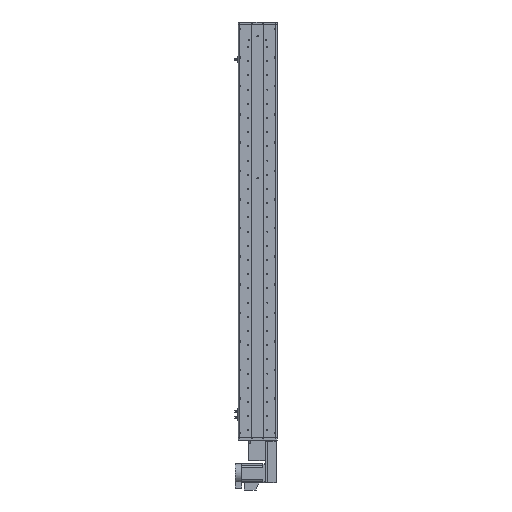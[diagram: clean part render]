
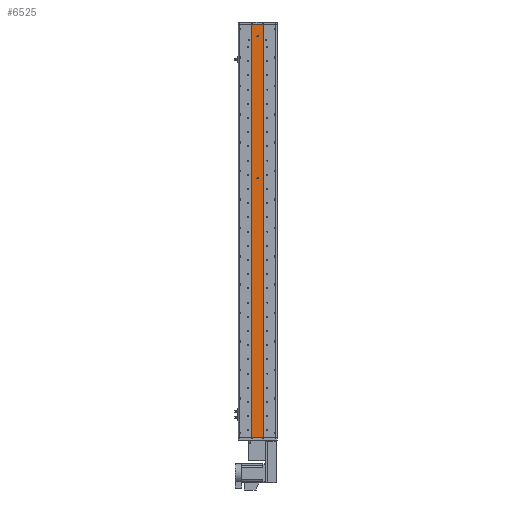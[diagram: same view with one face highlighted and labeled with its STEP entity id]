
A CAD part, front view. The second image highlights one B-rep face of the part: STEP entity #6525.
In plain terms, the highlighted planar face has unit normal (0, -1, 0).
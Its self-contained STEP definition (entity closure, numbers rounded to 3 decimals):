
#2265 = EDGE_CURVE ( 'NONE', #8688, #34502, #40503, .T. ) ;
#2456 = LINE ( 'NONE', #37828, #29016 ) ;
#3602 = CARTESIAN_POINT ( 'NONE',  ( 0., 1., 226.5 ) ) ;
#3659 = LINE ( 'NONE', #62742, #46045 ) ;
#3777 = DIRECTION ( 'NONE',  ( 0., 0., -1. ) ) ;
#4085 = CARTESIAN_POINT ( 'NONE',  ( 0., 1., 826.5 ) ) ;
#4672 = DIRECTION ( 'NONE',  ( 0., 0., 1. ) ) ;
#5432 = VERTEX_POINT ( 'NONE', #44148 ) ;
#5981 = DIRECTION ( 'NONE',  ( 1., 0., 0. ) ) ;
#6525 = ADVANCED_FACE ( 'NONE', ( #22495, #63098, #49084 ), #20218, .F. ) ;
#6551 = EDGE_CURVE ( 'NONE', #5432, #45073, #33289, .T. ) ;
#8191 = EDGE_CURVE ( 'NONE', #46473, #67175, #46670, .T. ) ;
#8688 = VERTEX_POINT ( 'NONE', #52315 ) ;
#9005 = DIRECTION ( 'NONE',  ( 0., -1., 0. ) ) ;
#9768 = CARTESIAN_POINT ( 'NONE',  ( 25., 1., 873.5 ) ) ;
#10098 = VECTOR ( 'NONE', #63163, 1000. ) ;
#14827 = VERTEX_POINT ( 'NONE', #50115 ) ;
#15587 = EDGE_CURVE ( 'NONE', #14827, #5432, #49190, .T. ) ;
#20218 = PLANE ( 'NONE',  #59800 ) ;
#20802 = VECTOR ( 'NONE', #31373, 1000. ) ;
#22173 = ORIENTED_EDGE ( 'NONE', *, *, #6551, .T. ) ;
#22202 = CARTESIAN_POINT ( 'NONE',  ( 25., 1., 873.5 ) ) ;
#22495 = FACE_BOUND ( 'NONE', #23314, .T. ) ;
#23314 = EDGE_LOOP ( 'NONE', ( #33164, #54968 ) ) ;
#24683 = EDGE_CURVE ( 'NONE', #14827, #45182, #2456, .T. ) ;
#25689 = DIRECTION ( 'NONE',  ( 0., 0., -1. ) ) ;
#26990 = CARTESIAN_POINT ( 'NONE',  ( 0., 1., 223.5 ) ) ;
#27113 = EDGE_LOOP ( 'NONE', ( #22173, #63123, #55695, #55168 ) ) ;
#27279 = DIRECTION ( 'NONE',  ( 0., -1., 0. ) ) ;
#27740 = EDGE_CURVE ( 'NONE', #67175, #46473, #42731, .T. ) ;
#28530 = CIRCLE ( 'NONE', #42769, 3. ) ;
#29016 = VECTOR ( 'NONE', #5981, 1000. ) ;
#31373 = DIRECTION ( 'NONE',  ( 1., 0., 0. ) ) ;
#32315 = DIRECTION ( 'NONE',  ( 0., 0., -1. ) ) ;
#33164 = ORIENTED_EDGE ( 'NONE', *, *, #2265, .F. ) ;
#33289 = LINE ( 'NONE', #57776, #20802 ) ;
#34502 = VERTEX_POINT ( 'NONE', #3602 ) ;
#35599 = DIRECTION ( 'NONE',  ( 0., -1., 0. ) ) ;
#36491 = DIRECTION ( 'NONE',  ( 0., 1., 0. ) ) ;
#37828 = CARTESIAN_POINT ( 'NONE',  ( 25., 1., 873.5 ) ) ;
#40503 = CIRCLE ( 'NONE', #40954, 3. ) ;
#40815 = CARTESIAN_POINT ( 'NONE',  ( 0., 1., 823.5 ) ) ;
#40954 = AXIS2_PLACEMENT_3D ( 'NONE', #67328, #35599, #3777 ) ;
#42731 = CIRCLE ( 'NONE', #45766, 3. ) ;
#42769 = AXIS2_PLACEMENT_3D ( 'NONE', #26990, #64056, #32315 ) ;
#44148 = CARTESIAN_POINT ( 'NONE',  ( -25., 1., -873.5 ) ) ;
#45073 = VERTEX_POINT ( 'NONE', #58121 ) ;
#45182 = VERTEX_POINT ( 'NONE', #22202 ) ;
#45766 = AXIS2_PLACEMENT_3D ( 'NONE', #40815, #9005, #46172 ) ;
#46045 = VECTOR ( 'NONE', #25689, 1000. ) ;
#46172 = DIRECTION ( 'NONE',  ( 0., 0., -1. ) ) ;
#46473 = VERTEX_POINT ( 'NONE', #4085 ) ;
#46670 = CIRCLE ( 'NONE', #50339, 3. ) ;
#47837 = ORIENTED_EDGE ( 'NONE', *, *, #27740, .F. ) ;
#49084 = FACE_OUTER_BOUND ( 'NONE', #27113, .T. ) ;
#49190 = LINE ( 'NONE', #68489, #10098 ) ;
#49394 = EDGE_CURVE ( 'NONE', #45182, #45073, #3659, .T. ) ;
#50115 = CARTESIAN_POINT ( 'NONE',  ( -25., 1., 873.5 ) ) ;
#50339 = AXIS2_PLACEMENT_3D ( 'NONE', #58996, #27279, #64338 ) ;
#52315 = CARTESIAN_POINT ( 'NONE',  ( 0., 1., 220.5 ) ) ;
#54968 = ORIENTED_EDGE ( 'NONE', *, *, #55483, .F. ) ;
#55168 = ORIENTED_EDGE ( 'NONE', *, *, #15587, .T. ) ;
#55483 = EDGE_CURVE ( 'NONE', #34502, #8688, #28530, .T. ) ;
#55695 = ORIENTED_EDGE ( 'NONE', *, *, #24683, .F. ) ;
#57776 = CARTESIAN_POINT ( 'NONE',  ( 25., 1., -873.5 ) ) ;
#58121 = CARTESIAN_POINT ( 'NONE',  ( 25., 1., -873.5 ) ) ;
#58996 = CARTESIAN_POINT ( 'NONE',  ( 0., 1., 823.5 ) ) ;
#59800 = AXIS2_PLACEMENT_3D ( 'NONE', #9768, #36491, #4672 ) ;
#62742 = CARTESIAN_POINT ( 'NONE',  ( 25., 1., 873.5 ) ) ;
#63098 = FACE_BOUND ( 'NONE', #68432, .T. ) ;
#63123 = ORIENTED_EDGE ( 'NONE', *, *, #49394, .F. ) ;
#63163 = DIRECTION ( 'NONE',  ( 0., 0., -1. ) ) ;
#63477 = ORIENTED_EDGE ( 'NONE', *, *, #8191, .F. ) ;
#64056 = DIRECTION ( 'NONE',  ( 0., -1., 0. ) ) ;
#64338 = DIRECTION ( 'NONE',  ( 0., 0., -1. ) ) ;
#64908 = CARTESIAN_POINT ( 'NONE',  ( 0., 1., 820.5 ) ) ;
#67175 = VERTEX_POINT ( 'NONE', #64908 ) ;
#67328 = CARTESIAN_POINT ( 'NONE',  ( 0., 1., 223.5 ) ) ;
#68432 = EDGE_LOOP ( 'NONE', ( #47837, #63477 ) ) ;
#68489 = CARTESIAN_POINT ( 'NONE',  ( -25., 1., 873.5 ) ) ;
